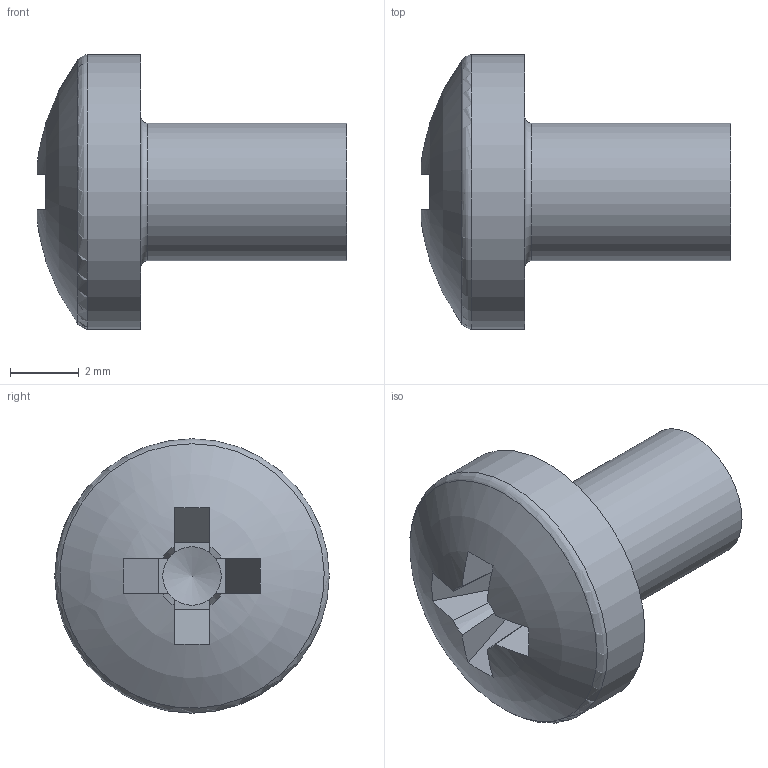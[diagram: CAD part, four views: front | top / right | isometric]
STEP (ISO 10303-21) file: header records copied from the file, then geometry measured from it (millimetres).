
FILE_DESCRIPTION(/* description */ ('STEP AP242 Edition 2','CAx-IF Rec.Pracs.---Representation and Presentation of Product Manufacturing Information (PMI)---4.0---2014-10-13','CAx-IF Rec.Pracs.---3D Tessellated Geometry---0.4---2014-09-14','2;1','CAx-IF Rec.Pracs.---User Defined Attributes---1.5---2016-08-15'),/* implementation_level */ '2;1');
FILE_NAME(/* name */ 'Assem2h - pan head cross recess screw_iso',/* time_stamp */ '2025-12-01T14:50:28Z',/* author */ (''),/* organization */ (''),/* preprocessor_version */ 'ST-DEVELOPER v20',/* originating_system */ 'ONSHAPE BY PTC INC, 1.207',/* authorisation */ ' ');
FILE_SCHEMA (('AP242_MANAGED_MODEL_BASED_3D_ENGINEERING_MIM_LF { 1 0 10303 442 3 1 4 }'));
Length unit declared in the file: metre
Products named in the file (1): pan head cross recess screw_iso
Bounding box: 9.02 x 8 x 8 mm (x, y, z)
Volume: 185.8 mm3; surface area: 244.5 mm2
Topology: 1 solids, 1 shells, 28 faces, 67 edges, 41 vertices
Faces by surface type: plane 18, cone 5, cylinder 2, torus 2, sphere 1
Full cylindrical faces by diameter (mm): 4 x1, 8 x1
Entity records: 790 total; most frequent: CARTESIAN_POINT 150, DIRECTION 138, ORIENTED_EDGE 116, AXIS2_PLACEMENT_3D 59, EDGE_CURVE 58, VERTEX_POINT 39, FACE_BOUND 35, EDGE_LOOP 34
